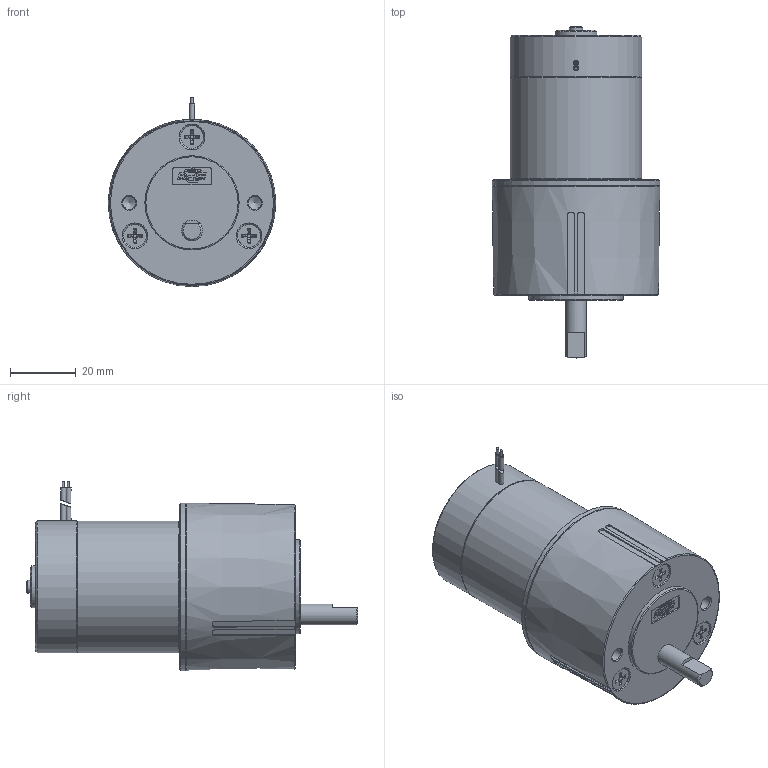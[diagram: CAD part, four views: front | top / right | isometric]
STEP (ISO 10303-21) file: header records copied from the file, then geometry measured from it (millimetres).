
FILE_DESCRIPTION((''),'2;1');
FILE_NAME('Z:\4_DC\새 폴더\RS4 SERIES\RS42ㅁㅁLㅁ.stp','2015-03-25T17:11:45',('kdhkdh'),(''),'Autodesk Inventor 2013','Autodesk Inventor 2013','');
FILE_SCHEMA(('AUTOMOTIVE_DESIGN { 1 0 10303 214 1 1 1 1 }'));
Length unit declared in the file: millimetre
Products named in the file (1): 부품1
Bounding box: 50.8 x 100.69 x 57.4 mm (x, y, z)
Volume: 126086.6 mm3; surface area: 16591.7 mm2
Topology: 2 solids, 4 shells, 365 faces, 950 edges, 619 vertices
Faces by surface type: plane 193, cylinder 105, cone 45, torus 22
Full cylindrical faces by diameter (mm): 0.76 x2, 1.56 x4, 2.8 x4, 3.5 x2, 3.7 x2, 3.962 x2, 4 x1, 6.34 x1, 6.9 x5, 7.8 x3, 12.7 x1, 28.575 x1, 40 x2, 50.8 x1
Entity records: 11520 total; most frequent: CARTESIAN_POINT 2953, ORIENTED_EDGE 1746, DIRECTION 1696, EDGE_CURVE 873, AXIS2_PLACEMENT_3D 633, VERTEX_POINT 596, EDGE_LOOP 453, VECTOR 430
